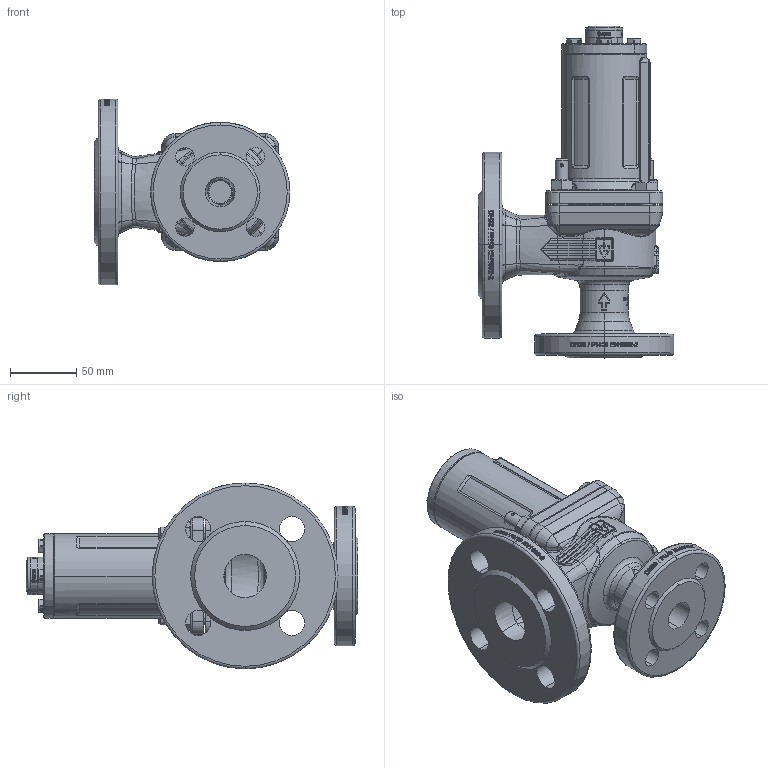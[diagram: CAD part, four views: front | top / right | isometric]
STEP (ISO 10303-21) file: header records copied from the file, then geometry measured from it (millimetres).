
FILE_DESCRIPTION (( 'STEP AP214' ), '1' );
FILE_NAME ('355tGFO_20_FLFL_2032.STEP', '2019-12-18T14:45:08', ( '' ), ( '' ), 'SwSTEP 2.0', 'SolidWorks 2018', '' );
FILE_SCHEMA (( 'AUTOMOTIVE_DESIGN' ));
Length unit declared in the file: millimetre
Products named in the file (1): 355tGFO_20_FLFL_2032
Bounding box: 147.5 x 250 x 140 mm (x, y, z)
Volume: 850114.5 mm3; surface area: 204220.9 mm2
Topology: 15 solids, 15 shells, 1842 faces, 5113 edges, 3470 vertices
Faces by surface type: bspline 603, cylinder 497, plane 493, cone 166, torus 74, sphere 9
Entity records: 155617 total; most frequent: CARTESIAN_POINT 92261, ORIENTED_EDGE 10140, DIRECTION 7128, EDGE_CURVE 5070, VERTEX_POINT 3469, AXIS2_PLACEMENT_3D 2821, EDGE_LOOP 2113, B_SPLINE_CURVE_WITH_KNOTS 1980
